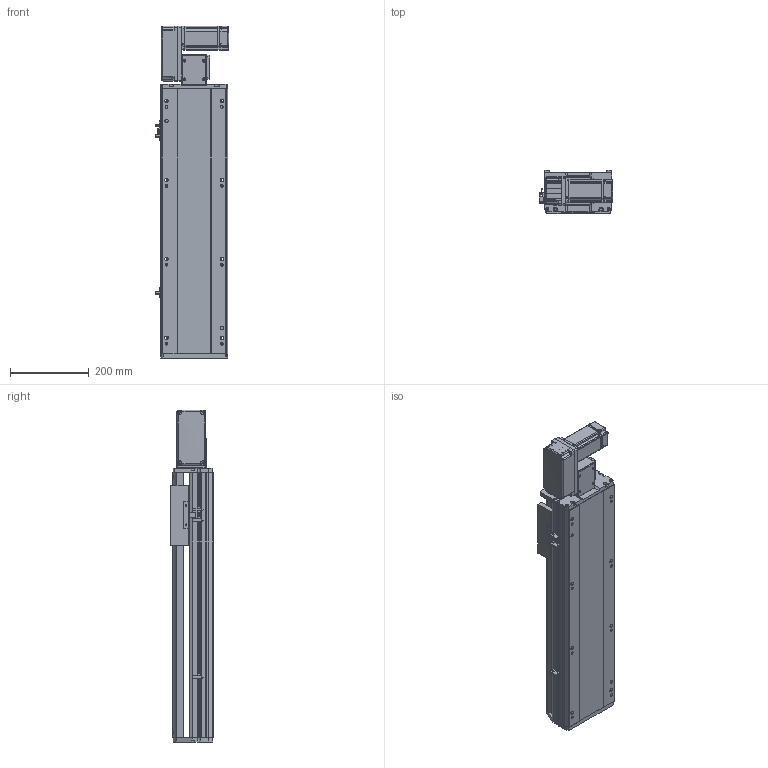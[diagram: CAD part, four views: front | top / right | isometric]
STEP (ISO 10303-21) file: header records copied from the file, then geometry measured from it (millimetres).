
FILE_DESCRIPTION (( 'STEP AP214' ), '1' );
FILE_NAME ('RTB17S-XX-400-L-M40-C4.STEP', '2025-12-11T03:50:50', ( '' ), ( '' ), 'SwSTEP 2.0', 'SolidWorks 2018', '' );
FILE_SCHEMA (( 'AUTOMOTIVE_DESIGN' ));
Length unit declared in the file: millimetre
Products named in the file (14): RTB17-R-011菁釱^RTB17S-XX-XX-L-M40-C4; RTB14-L-017P^RTB17S-L-々湍釱蚾饜-400W_RTB17S-XX-XX-L-M40-C4; RTH13-BL-012覜茼え俋离^RTB17S-XX-XX-L-M40-C4; 400W侜督萇儂^RTB17S-XX-XX-L-M40-C4; RTB14-L-008-M20--萇儂啣^RTB17S-L-々湍釱蚾饜-400W_RTB17S-XX-XX-L-M40-C4; RMP17S-L-014-T20--々湍釱^RTB17S-L-々湍釱蚾饜-400W_RTB17S-XX-XX-L-M40-C4; OMRON EE-SX672 传感器^RTB17S-XX-XX-L-M40-C4; RTB17S-L-007奻裔^RTB17S-XX-XX-L-M40-C4; RTB17S-L-004佪裝蹟譫蟀諉釱^RTB17S-XX-XX-L-M40-C4; RTB17S-L-々湍釱蚾饜-400W^RTB17S-XX-XX-L-M40-C4; RTB17S-XX-400-L-M40-C4; RTB14-L-018P^RTB17S-L-々湍釱蚾饜-400W_RTB17S-XX-XX-L-M40-C4; RTB14-L-005P--轴承塑胶压盖^RTB17S-L-皮带座装配-400W_RTB17S-XX-XX-L-M40-C4; RTB17S-L-001耜醱啣^RTB17S-XX-XX-L-M40-C4
Assembly tree (16 placements, depth 3):
  RTB17S-XX-400-L-M40-C4
    RTB17-R-011菁釱^RTB17S-XX-XX-L-M40-C4
    RTB17S-L-007奻裔^RTB17S-XX-XX-L-M40-C4
    OMRON EE-SX672 传感器^RTB17S-XX-XX-L-M40-C4  x3
    RTB17S-L-001耜醱啣^RTB17S-XX-XX-L-M40-C4
    400W侜督萇儂^RTB17S-XX-XX-L-M40-C4
    RTB17S-L-004佪裝蹟譫蟀諉釱^RTB17S-XX-XX-L-M40-C4
    RTH13-BL-012覜茼え俋离^RTB17S-XX-XX-L-M40-C4
    RTB17S-L-々湍釱蚾饜-400W^RTB17S-XX-XX-L-M40-C4
      RMP17S-L-014-T20--々湍釱^RTB17S-L-々湍釱蚾饜-400W_RTB17S-XX-XX-L-M40-C4
      RTB14-L-005P--轴承塑胶压盖^RTB17S-L-皮带座装配-400W_RTB17S-XX-XX-L-M40-C4
      RTB14-L-008-M20--萇儂啣^RTB17S-L-々湍釱蚾饜-400W_RTB17S-XX-XX-L-M40-C4
      RTB14-L-017P^RTB17S-L-々湍釱蚾饜-400W_RTB17S-XX-XX-L-M40-C4  x2
      RTB14-L-018P^RTB17S-L-々湍釱蚾饜-400W_RTB17S-XX-XX-L-M40-C4
Bounding box: 186 x 108 x 841 mm (x, y, z)
Volume: 7484045.1 mm3; surface area: 963590.7 mm2
Topology: 15 solids, 15 shells, 2157 faces, 5925 edges, 3861 vertices
Faces by surface type: plane 1062, cylinder 647, bspline 301, cone 139, torus 8
Entity records: 60329 total; most frequent: CARTESIAN_POINT 16730, ORIENTED_EDGE 8694, DIRECTION 8126, EDGE_CURVE 4347, VERTEX_POINT 2849, AXIS2_PLACEMENT_3D 2779, LINE 2568, VECTOR 2568
